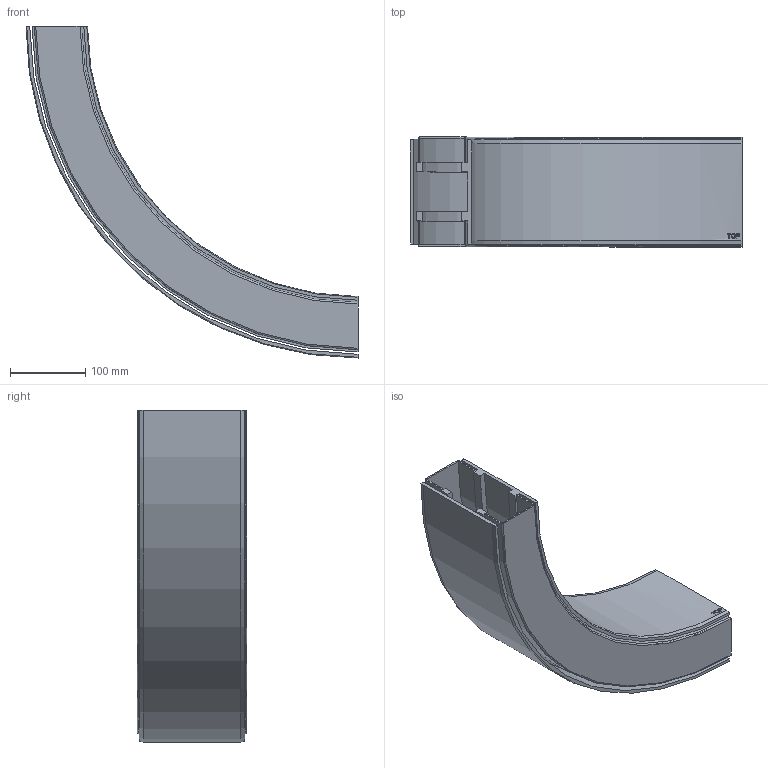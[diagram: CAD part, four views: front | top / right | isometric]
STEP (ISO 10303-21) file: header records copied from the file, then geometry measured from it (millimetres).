
FILE_DESCRIPTION(/* description */ ('VERTIKALKURVA S540 R400'),/* implementation_level */ '2;1');
FILE_NAME(/* name */ '540-5645+140-2000-UPP-01.stp',/* time_stamp */ '2022-09-21T10:39:50+02:00',/* author */ ('Mathias.Dore'),/* organization */ ('CARRYLINE'),/* preprocessor_version */ 'ST-DEVELOPER v19.2',/* originating_system */ 'Autodesk Inventor 2023',/* authorisation */ '');
FILE_SCHEMA (('AUTOMOTIVE_DESIGN { 1 0 10303 214 3 1 1 }'));
Length unit declared in the file: millimetre
Products named in the file (1): 540-5645+140-2000-UPP-01
Bounding box: 442.5 x 146 x 442.5 mm (x, y, z)
Volume: 1444990.5 mm3; surface area: 754455.9 mm2
Topology: 2 solids, 2 shells, 87 faces, 234 edges, 156 vertices
Faces by surface type: plane 40, cylinder 25, bspline 14, cone 4, torus 4
Entity records: 7357 total; most frequent: CARTESIAN_POINT 5158, ORIENTED_EDGE 468, DIRECTION 408, EDGE_CURVE 234, VERTEX_POINT 156, AXIS2_PLACEMENT_3D 141, LINE 126, VECTOR 126
